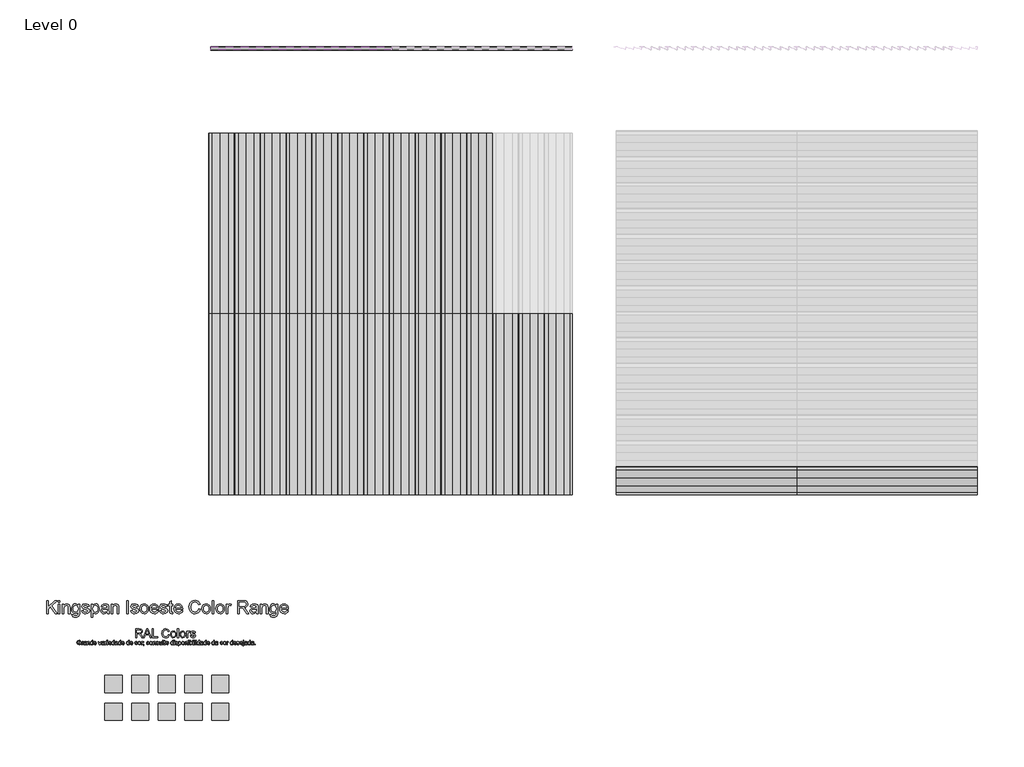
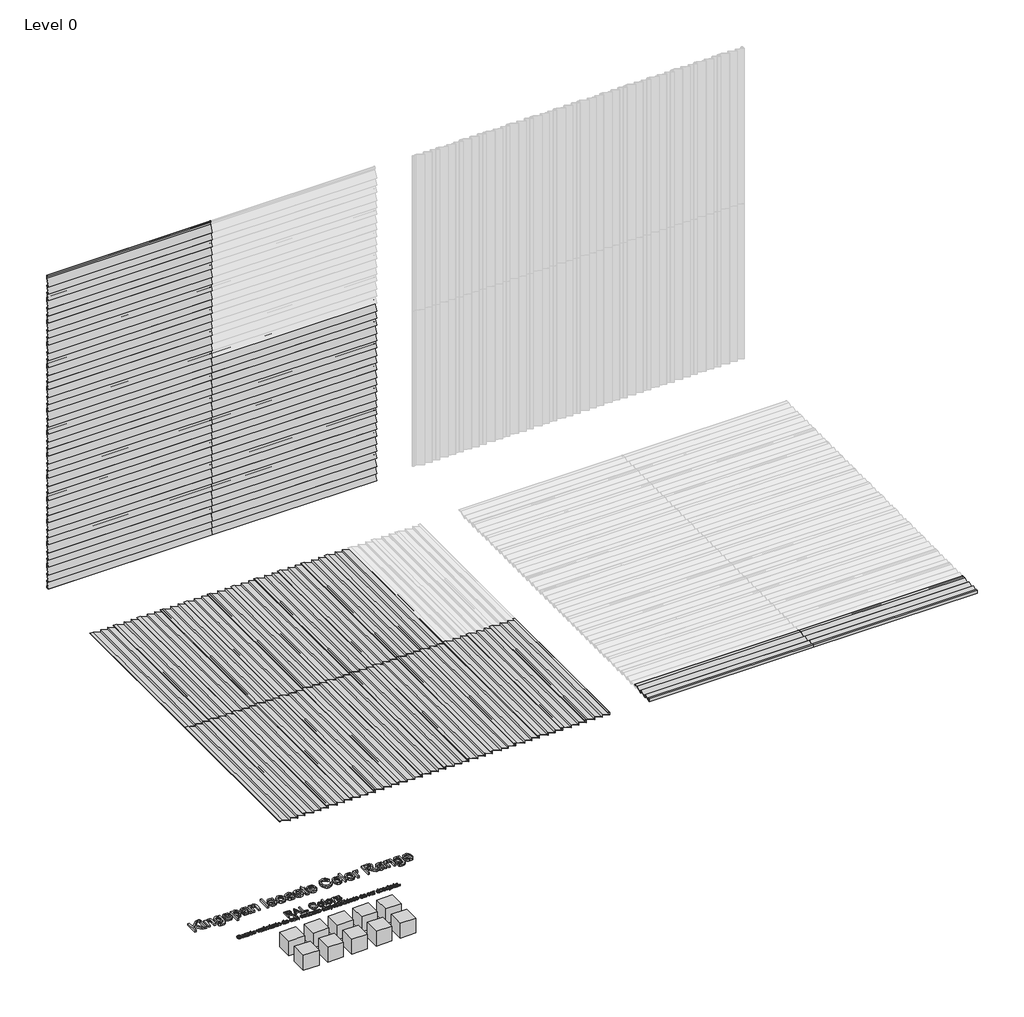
# One storey, part 1 of 2: 60 proxies.
"""IFC4 building model written with IfcOpenShell, lengths in millimetres."""

from ifc_helpers import new_model, si_unit, origin, place, context, project, spatial, transform, mapped, element, save
from components import proxy_32_ks_iso_colour_range_8220f766, proxy_32_ks_iso_colour_range_06d69407, ks_colour_sample_ks_colour_sample_0243efec, ps1_0_standard_panel_ns_bf2b593f, ps1_0_standard_panel_ns_1c35b6c5

model = new_model("IFC4")

# Units and contexts
model_context = context("Model", 3, world=origin())
ifc_project = project(units=[si_unit("LENGTHUNIT", "METRE", prefix="MILLI")], contexts=[model_context])

# Site, building, storey
site = spatial("IfcSite", under=ifc_project)
building = spatial("IfcBuilding", under=site)
storey = spatial("IfcBuildingStorey", under=building, Name="Level 0", Elevation=0.0)

# Proxies
placement = place(None, origin())
proxy_32_ks_iso_colour_range_shape = proxy_32_ks_iso_colour_range_8220f766(model_context)
proxy_32_ks_iso_colour_range_2_shape = proxy_32_ks_iso_colour_range_06d69407(model_context)
element("IfcBuildingElementProxy", 1, Name="32-KS-ISO-Colour Range : Kingspan Isoeste Color Range", ObjectType="32-KS-ISO-Colour Range : Kingspan Isoeste Color Range", at=placement, inside=storey, context=model_context, shape_type="MappedRepresentation", body=[
    mapped(proxy_32_ks_iso_colour_range_shape, transform((-3929.8390717, -2223.0925896, 0.0), x_axis=(1.0, 0.0, 0.0), y_axis=(0.0, 1.0, 0.0), z_axis=(0.0, 0.0, 1.0))),
    mapped(proxy_32_ks_iso_colour_range_2_shape, transform((-3929.8390717, -2223.0925896, 0.0), x_axis=(1.0, 0.0, 0.0), y_axis=(0.0, 1.0, 0.0), z_axis=(0.0, 0.0, 1.0))),
])
ks_colour_sample_ks_colour_sample_shape = ks_colour_sample_ks_colour_sample_0243efec(model_context)
element("IfcBuildingElementProxy", 2, Name="KS_Colour Sample : KS_Colour Sample", ObjectType="KS_Colour Sample : KS_Colour Sample", at=placement, inside=storey, context=model_context, shape_type="MappedRepresentation", body=[
    mapped(ks_colour_sample_ks_colour_sample_shape, transform((-3309.8390717, -2663.0925896, 0.0), x_axis=(1.0, 0.0, 0.0), y_axis=(0.0, 1.0, 0.0), z_axis=(0.0, 0.0, 1.0))),
])
element("IfcBuildingElementProxy", 3, Name="KS_Colour Sample : KS_Colour Sample", ObjectType="KS_Colour Sample : KS_Colour Sample", at=placement, inside=storey, context=model_context, shape_type="MappedRepresentation", body=[
    mapped(ks_colour_sample_ks_colour_sample_shape, transform((-3309.8390717, -2343.0925896, 0.0), x_axis=(1.0, 0.0, 0.0), y_axis=(0.0, 1.0, 0.0), z_axis=(0.0, 0.0, 1.0))),
])
element("IfcBuildingElementProxy", 4, Name="KS_Colour Sample : KS_Colour Sample", ObjectType="KS_Colour Sample : KS_Colour Sample", at=placement, inside=storey, context=model_context, shape_type="MappedRepresentation", body=[
    mapped(ks_colour_sample_ks_colour_sample_shape, transform((-4549.8390717, -2663.0925896, 0.0), x_axis=(1.0, 0.0, 0.0), y_axis=(0.0, 1.0, 0.0), z_axis=(0.0, 0.0, 1.0))),
])
element("IfcBuildingElementProxy", 5, Name="KS_Colour Sample : KS_Colour Sample", ObjectType="KS_Colour Sample : KS_Colour Sample", at=placement, inside=storey, context=model_context, shape_type="MappedRepresentation", body=[
    mapped(ks_colour_sample_ks_colour_sample_shape, transform((-4239.8390717, -2663.0925896, 0.0), x_axis=(1.0, 0.0, 0.0), y_axis=(0.0, 1.0, 0.0), z_axis=(0.0, 0.0, 1.0))),
])
element("IfcBuildingElementProxy", 6, Name="KS_Colour Sample : KS_Colour Sample", ObjectType="KS_Colour Sample : KS_Colour Sample", at=placement, inside=storey, context=model_context, shape_type="MappedRepresentation", body=[
    mapped(ks_colour_sample_ks_colour_sample_shape, transform((-3619.8390717, -2663.0925896, 0.0), x_axis=(1.0, 0.0, 0.0), y_axis=(0.0, 1.0, 0.0), z_axis=(0.0, 0.0, 1.0))),
])
element("IfcBuildingElementProxy", 7, Name="KS_Colour Sample : KS_Colour Sample", ObjectType="KS_Colour Sample : KS_Colour Sample", at=placement, inside=storey, context=model_context, shape_type="MappedRepresentation", body=[
    mapped(ks_colour_sample_ks_colour_sample_shape, transform((-4549.8390717, -2343.0925896, 0.0), x_axis=(1.0, 0.0, 0.0), y_axis=(0.0, 1.0, 0.0), z_axis=(0.0, 0.0, 1.0))),
])
element("IfcBuildingElementProxy", 8, Name="KS_Colour Sample : KS_Colour Sample", ObjectType="KS_Colour Sample : KS_Colour Sample", at=placement, inside=storey, context=model_context, shape_type="MappedRepresentation", body=[
    mapped(ks_colour_sample_ks_colour_sample_shape, transform((-4239.8390717, -2343.0925896, 0.0), x_axis=(1.0, 0.0, 0.0), y_axis=(0.0, 1.0, 0.0), z_axis=(0.0, 0.0, 1.0))),
])
element("IfcBuildingElementProxy", 9, Name="KS_Colour Sample : KS_Colour Sample", ObjectType="KS_Colour Sample : KS_Colour Sample", at=placement, inside=storey, context=model_context, shape_type="MappedRepresentation", body=[
    mapped(ks_colour_sample_ks_colour_sample_shape, transform((-3619.8390717, -2343.0925896, 0.0), x_axis=(1.0, 0.0, 0.0), y_axis=(0.0, 1.0, 0.0), z_axis=(0.0, 0.0, 1.0))),
])
element("IfcBuildingElementProxy", 10, Name="KS_Colour Sample : KS_Colour Sample", ObjectType="KS_Colour Sample : KS_Colour Sample", at=placement, inside=storey, context=model_context, shape_type="MappedRepresentation", body=[
    mapped(ks_colour_sample_ks_colour_sample_shape, transform((-3929.8390717, -2343.0925896, 0.0), x_axis=(1.0, 0.0, 0.0), y_axis=(0.0, 1.0, 0.0), z_axis=(0.0, 0.0, 1.0))),
])
element("IfcBuildingElementProxy", 11, Name="KS_Colour Sample : KS_Colour Sample", ObjectType="KS_Colour Sample : KS_Colour Sample", at=placement, inside=storey, context=model_context, shape_type="MappedRepresentation", body=[
    mapped(ks_colour_sample_ks_colour_sample_shape, transform((-3929.8390717, -2663.0925896, 0.0), x_axis=(1.0, 0.0, 0.0), y_axis=(0.0, 1.0, 0.0), z_axis=(0.0, 0.0, 1.0))),
])
ps1_0_standard_panel_ns_shape = ps1_0_standard_panel_ns_bf2b593f(model_context)
element("IfcBuildingElementProxy", 12, Name="PS1.0 : Standard Panel_NS", ObjectType="PS1.0 : Standard Panel_NS", at=placement, inside=storey, context=model_context, shape_type="MappedRepresentation", body=[
    mapped(ps1_0_standard_panel_ns_shape, transform((-3417.7637295, 5063.0274074, 300.0), x_axis=(1.0, 0.0, 0.0), y_axis=(0.0, 0.0, 1.0), z_axis=(0.0, -1.0, 0.0))),
])
element("IfcBuildingElementProxy", 13, Name="PS1.0 : Standard Panel_NS", ObjectType="PS1.0 : Standard Panel_NS", at=placement, inside=storey, context=model_context, shape_type="MappedRepresentation", body=[
    mapped(ps1_0_standard_panel_ns_shape, transform((-3417.7637295, 5063.0274074, 2700.0), x_axis=(1.0, 0.0, 0.0), y_axis=(0.0, 0.0, 1.0), z_axis=(0.0, -1.0, 0.0))),
])
element("IfcBuildingElementProxy", 14, Name="PS1.0 : Standard Panel_NS", ObjectType="PS1.0 : Standard Panel_NS", at=placement, inside=storey, context=model_context, shape_type="MappedRepresentation", body=[
    mapped(ps1_0_standard_panel_ns_shape, transform((-1317.7637295, 5063.0274074, 300.0), x_axis=(1.0, 0.0, 0.0), y_axis=(0.0, 0.0, 1.0), z_axis=(0.0, -1.0, 0.0))),
])
ps1_0_standard_panel_ns_2_shape = ps1_0_standard_panel_ns_1c35b6c5(model_context)
element("IfcBuildingElementProxy", 15, Name="PS1.0 : Standard Panel_NS", ObjectType="PS1.0 : Standard Panel_NS", at=placement, inside=storey, context=model_context, shape_type="MappedRepresentation", body=[
    mapped(ps1_0_standard_panel_ns_2_shape, transform((482.2362703, -141.6886547, 0.0), x_axis=(0.0, 1.0, 0.0), y_axis=(-1.0, 0.0, 0.0), z_axis=(0.0, 0.0, 1.0))),
])
element("IfcBuildingElementProxy", 16, Name="PS1.0 : Standard Panel_NS", ObjectType="PS1.0 : Standard Panel_NS", at=placement, inside=storey, context=model_context, shape_type="MappedRepresentation", body=[
    mapped(ps1_0_standard_panel_ns_2_shape, transform((-1917.7637297, -141.6886547, 0.0), x_axis=(0.0, 1.0, 0.0), y_axis=(-1.0, 0.0, 0.0), z_axis=(0.0, 0.0, 1.0))),
])
element("IfcBuildingElementProxy", 17, Name="PS1.0 : Standard Panel_NS", ObjectType="PS1.0 : Standard Panel_NS", at=placement, inside=storey, context=model_context, shape_type="MappedRepresentation", body=[
    mapped(ps1_0_standard_panel_ns_2_shape, transform((-1917.7637297, 1958.3113453, 0.0), x_axis=(0.0, 1.0, 0.0), y_axis=(-1.0, 0.0, 0.0), z_axis=(0.0, 0.0, 1.0))),
])
element("IfcBuildingElementProxy", 18, Name="PS1.0 : Standard Panel_NS", ObjectType="PS1.0 : Standard Panel_NS", at=placement, inside=storey, context=model_context, shape_type="MappedRepresentation", body=[
    mapped(ps1_0_standard_panel_ns_shape, transform((-3417.7637295, 5063.0274074, 0.0), x_axis=(1.0, 0.0, 0.0), y_axis=(0.0, 0.0, 1.0), z_axis=(0.0, -1.0, 0.0))),
])
element("IfcBuildingElementProxy", 19, Name="PS1.0 : Standard Panel_NS", ObjectType="PS1.0 : Standard Panel_NS", at=placement, inside=storey, context=model_context, shape_type="MappedRepresentation", body=[
    mapped(ps1_0_standard_panel_ns_shape, transform((-3417.7637295, 5063.0274074, 2400.0), x_axis=(1.0, 0.0, 0.0), y_axis=(0.0, 0.0, 1.0), z_axis=(0.0, -1.0, 0.0))),
])
element("IfcBuildingElementProxy", 20, Name="PS1.0 : Standard Panel_NS", ObjectType="PS1.0 : Standard Panel_NS", at=placement, inside=storey, context=model_context, shape_type="MappedRepresentation", body=[
    mapped(ps1_0_standard_panel_ns_shape, transform((-1317.7637295, 5063.0274074, 0.0), x_axis=(1.0, 0.0, 0.0), y_axis=(0.0, 0.0, 1.0), z_axis=(0.0, -1.0, 0.0))),
])
element("IfcBuildingElementProxy", 21, Name="PS1.0 : Standard Panel_NS", ObjectType="PS1.0 : Standard Panel_NS", at=placement, inside=storey, context=model_context, shape_type="MappedRepresentation", body=[
    mapped(ps1_0_standard_panel_ns_2_shape, transform((-1617.7637297, -141.6886547, 0.0), x_axis=(0.0, 1.0, 0.0), y_axis=(-1.0, 0.0, 0.0), z_axis=(0.0, 0.0, 1.0))),
])
element("IfcBuildingElementProxy", 22, Name="PS1.0 : Standard Panel_NS", ObjectType="PS1.0 : Standard Panel_NS", at=placement, inside=storey, context=model_context, shape_type="MappedRepresentation", body=[
    mapped(ps1_0_standard_panel_ns_2_shape, transform((1289.7088668, -141.6886547, 0.0), x_axis=(1.0, 0.0, 0.0), y_axis=(0.0, 1.0, 0.0), z_axis=(0.0, 0.0, 1.0))),
])
element("IfcBuildingElementProxy", 23, Name="PS1.0 : Standard Panel_NS", ObjectType="PS1.0 : Standard Panel_NS", at=placement, inside=storey, context=model_context, shape_type="MappedRepresentation", body=[
    mapped(ps1_0_standard_panel_ns_2_shape, transform((-1617.7637297, 1958.3113453, 0.0), x_axis=(0.0, 1.0, 0.0), y_axis=(-1.0, 0.0, 0.0), z_axis=(0.0, 0.0, 1.0))),
])
element("IfcBuildingElementProxy", 24, Name="PS1.0 : Standard Panel_NS", ObjectType="PS1.0 : Standard Panel_NS", at=placement, inside=storey, context=model_context, shape_type="MappedRepresentation", body=[
    mapped(ps1_0_standard_panel_ns_2_shape, transform((3389.7088668, -141.6886547, 0.0), x_axis=(1.0, 0.0, 0.0), y_axis=(0.0, 1.0, 0.0), z_axis=(0.0, 0.0, 1.0))),
])
element("IfcBuildingElementProxy", 25, Name="PS1.0 : Standard Panel_NS", ObjectType="PS1.0 : Standard Panel_NS", at=placement, inside=storey, context=model_context, shape_type="MappedRepresentation", body=[
    mapped(ps1_0_standard_panel_ns_2_shape, transform((782.2362705, -141.6886547, 0.0), x_axis=(0.0, 1.0, 0.0), y_axis=(-1.0, 0.0, 0.0), z_axis=(0.0, 0.0, 1.0))),
])
element("IfcBuildingElementProxy", 26, Name="PS1.0 : Standard Panel_NS", ObjectType="PS1.0 : Standard Panel_NS", at=placement, inside=storey, context=model_context, shape_type="MappedRepresentation", body=[
    mapped(ps1_0_standard_panel_ns_2_shape, transform((-3117.7637295, -141.6886547, 0.0), x_axis=(0.0, 1.0, 0.0), y_axis=(-1.0, 0.0, 0.0), z_axis=(0.0, 0.0, 1.0))),
])
element("IfcBuildingElementProxy", 27, Name="PS1.0 : Standard Panel_NS", ObjectType="PS1.0 : Standard Panel_NS", at=placement, inside=storey, context=model_context, shape_type="MappedRepresentation", body=[
    mapped(ps1_0_standard_panel_ns_2_shape, transform((-717.7637297, -141.6886547, 0.0), x_axis=(0.0, 1.0, 0.0), y_axis=(-1.0, 0.0, 0.0), z_axis=(0.0, 0.0, 1.0))),
])
element("IfcBuildingElementProxy", 28, Name="PS1.0 : Standard Panel_NS", ObjectType="PS1.0 : Standard Panel_NS", at=placement, inside=storey, context=model_context, shape_type="MappedRepresentation", body=[
    mapped(ps1_0_standard_panel_ns_2_shape, transform((-3117.7637295, 1958.3113453, 0.0), x_axis=(0.0, 1.0, 0.0), y_axis=(-1.0, 0.0, 0.0), z_axis=(0.0, 0.0, 1.0))),
])
element("IfcBuildingElementProxy", 29, Name="PS1.0 : Standard Panel_NS", ObjectType="PS1.0 : Standard Panel_NS", at=placement, inside=storey, context=model_context, shape_type="MappedRepresentation", body=[
    mapped(ps1_0_standard_panel_ns_2_shape, transform((-717.7637297, 1958.3113453, 0.0), x_axis=(0.0, 1.0, 0.0), y_axis=(-1.0, 0.0, 0.0), z_axis=(0.0, 0.0, 1.0))),
])
element("IfcBuildingElementProxy", 30, Name="PS1.0 : Standard Panel_NS", ObjectType="PS1.0 : Standard Panel_NS", at=placement, inside=storey, context=model_context, shape_type="MappedRepresentation", body=[
    mapped(ps1_0_standard_panel_ns_shape, transform((-3417.7637295, 5063.0274074, 1500.0), x_axis=(1.0, 0.0, 0.0), y_axis=(0.0, 0.0, 1.0), z_axis=(0.0, -1.0, 0.0))),
])
element("IfcBuildingElementProxy", 31, Name="PS1.0 : Standard Panel_NS", ObjectType="PS1.0 : Standard Panel_NS", at=placement, inside=storey, context=model_context, shape_type="MappedRepresentation", body=[
    mapped(ps1_0_standard_panel_ns_shape, transform((-3417.7637295, 5063.0274074, 3900.0), x_axis=(1.0, 0.0, 0.0), y_axis=(0.0, 0.0, 1.0), z_axis=(0.0, -1.0, 0.0))),
])
element("IfcBuildingElementProxy", 32, Name="PS1.0 : Standard Panel_NS", ObjectType="PS1.0 : Standard Panel_NS", at=placement, inside=storey, context=model_context, shape_type="MappedRepresentation", body=[
    mapped(ps1_0_standard_panel_ns_shape, transform((-1317.7637295, 5063.0274074, 1500.0), x_axis=(1.0, 0.0, 0.0), y_axis=(0.0, 0.0, 1.0), z_axis=(0.0, -1.0, 0.0))),
])
element("IfcBuildingElementProxy", 33, Name="PS1.0 : Standard Panel_NS", ObjectType="PS1.0 : Standard Panel_NS", at=placement, inside=storey, context=model_context, shape_type="MappedRepresentation", body=[
    mapped(ps1_0_standard_panel_ns_shape, transform((-3417.7637295, 5063.0274074, 600.0), x_axis=(1.0, 0.0, 0.0), y_axis=(0.0, 0.0, 1.0), z_axis=(0.0, -1.0, 0.0))),
])
element("IfcBuildingElementProxy", 34, Name="PS1.0 : Standard Panel_NS", ObjectType="PS1.0 : Standard Panel_NS", at=placement, inside=storey, context=model_context, shape_type="MappedRepresentation", body=[
    mapped(ps1_0_standard_panel_ns_shape, transform((-3417.7637295, 5063.0274074, 3000.0), x_axis=(1.0, 0.0, 0.0), y_axis=(0.0, 0.0, 1.0), z_axis=(0.0, -1.0, 0.0))),
])
element("IfcBuildingElementProxy", 35, Name="PS1.0 : Standard Panel_NS", ObjectType="PS1.0 : Standard Panel_NS", at=placement, inside=storey, context=model_context, shape_type="MappedRepresentation", body=[
    mapped(ps1_0_standard_panel_ns_shape, transform((-1317.7637295, 5063.0274074, 600.0), x_axis=(1.0, 0.0, 0.0), y_axis=(0.0, 0.0, 1.0), z_axis=(0.0, -1.0, 0.0))),
])
element("IfcBuildingElementProxy", 36, Name="PS1.0 : Standard Panel_NS", ObjectType="PS1.0 : Standard Panel_NS", at=placement, inside=storey, context=model_context, shape_type="MappedRepresentation", body=[
    mapped(ps1_0_standard_panel_ns_shape, transform((-3417.7637295, 5063.0274074, 900.0), x_axis=(1.0, 0.0, 0.0), y_axis=(0.0, 0.0, 1.0), z_axis=(0.0, -1.0, 0.0))),
])
element("IfcBuildingElementProxy", 37, Name="PS1.0 : Standard Panel_NS", ObjectType="PS1.0 : Standard Panel_NS", at=placement, inside=storey, context=model_context, shape_type="MappedRepresentation", body=[
    mapped(ps1_0_standard_panel_ns_shape, transform((-3417.7637295, 5063.0274074, 3300.0), x_axis=(1.0, 0.0, 0.0), y_axis=(0.0, 0.0, 1.0), z_axis=(0.0, -1.0, 0.0))),
])
element("IfcBuildingElementProxy", 38, Name="PS1.0 : Standard Panel_NS", ObjectType="PS1.0 : Standard Panel_NS", at=placement, inside=storey, context=model_context, shape_type="MappedRepresentation", body=[
    mapped(ps1_0_standard_panel_ns_shape, transform((-1317.7637295, 5063.0274074, 900.0), x_axis=(1.0, 0.0, 0.0), y_axis=(0.0, 0.0, 1.0), z_axis=(0.0, -1.0, 0.0))),
])
element("IfcBuildingElementProxy", 39, Name="PS1.0 : Standard Panel_NS", ObjectType="PS1.0 : Standard Panel_NS", at=placement, inside=storey, context=model_context, shape_type="MappedRepresentation", body=[
    mapped(ps1_0_standard_panel_ns_shape, transform((-3417.7637295, 5063.0274074, 1200.0), x_axis=(1.0, 0.0, 0.0), y_axis=(0.0, 0.0, 1.0), z_axis=(0.0, -1.0, 0.0))),
])
element("IfcBuildingElementProxy", 40, Name="PS1.0 : Standard Panel_NS", ObjectType="PS1.0 : Standard Panel_NS", at=placement, inside=storey, context=model_context, shape_type="MappedRepresentation", body=[
    mapped(ps1_0_standard_panel_ns_shape, transform((-3417.7637295, 5063.0274074, 3600.0), x_axis=(1.0, 0.0, 0.0), y_axis=(0.0, 0.0, 1.0), z_axis=(0.0, -1.0, 0.0))),
])
element("IfcBuildingElementProxy", 41, Name="PS1.0 : Standard Panel_NS", ObjectType="PS1.0 : Standard Panel_NS", at=placement, inside=storey, context=model_context, shape_type="MappedRepresentation", body=[
    mapped(ps1_0_standard_panel_ns_shape, transform((-1317.7637295, 5063.0274074, 1200.0), x_axis=(1.0, 0.0, 0.0), y_axis=(0.0, 0.0, 1.0), z_axis=(0.0, -1.0, 0.0))),
])
element("IfcBuildingElementProxy", 42, Name="PS1.0 : Standard Panel_NS", ObjectType="PS1.0 : Standard Panel_NS", at=placement, inside=storey, context=model_context, shape_type="MappedRepresentation", body=[
    mapped(ps1_0_standard_panel_ns_shape, transform((-3417.7637295, 5063.0274074, 1800.0), x_axis=(1.0, 0.0, 0.0), y_axis=(0.0, 0.0, 1.0), z_axis=(0.0, -1.0, 0.0))),
])
element("IfcBuildingElementProxy", 43, Name="PS1.0 : Standard Panel_NS", ObjectType="PS1.0 : Standard Panel_NS", at=placement, inside=storey, context=model_context, shape_type="MappedRepresentation", body=[
    mapped(ps1_0_standard_panel_ns_shape, transform((-1317.7637295, 5063.0274074, 1800.0), x_axis=(1.0, 0.0, 0.0), y_axis=(0.0, 0.0, 1.0), z_axis=(0.0, -1.0, 0.0))),
])
element("IfcBuildingElementProxy", 44, Name="PS1.0 : Standard Panel_NS", ObjectType="PS1.0 : Standard Panel_NS", at=placement, inside=storey, context=model_context, shape_type="MappedRepresentation", body=[
    mapped(ps1_0_standard_panel_ns_shape, transform((-3417.7637295, 5063.0274074, 2100.0), x_axis=(1.0, 0.0, 0.0), y_axis=(0.0, 0.0, 1.0), z_axis=(0.0, -1.0, 0.0))),
])
element("IfcBuildingElementProxy", 45, Name="PS1.0 : Standard Panel_NS", ObjectType="PS1.0 : Standard Panel_NS", at=placement, inside=storey, context=model_context, shape_type="MappedRepresentation", body=[
    mapped(ps1_0_standard_panel_ns_shape, transform((-1317.7637295, 5063.0274074, 2100.0), x_axis=(1.0, 0.0, 0.0), y_axis=(0.0, 0.0, 1.0), z_axis=(0.0, -1.0, 0.0))),
])
element("IfcBuildingElementProxy", 46, Name="PS1.0 : Standard Panel_NS", ObjectType="PS1.0 : Standard Panel_NS", at=placement, inside=storey, context=model_context, shape_type="MappedRepresentation", body=[
    mapped(ps1_0_standard_panel_ns_2_shape, transform((182.2362703, -141.6886547, 0.0), x_axis=(0.0, 1.0, 0.0), y_axis=(-1.0, 0.0, 0.0), z_axis=(0.0, 0.0, 1.0))),
])
element("IfcBuildingElementProxy", 47, Name="PS1.0 : Standard Panel_NS", ObjectType="PS1.0 : Standard Panel_NS", at=placement, inside=storey, context=model_context, shape_type="MappedRepresentation", body=[
    mapped(ps1_0_standard_panel_ns_2_shape, transform((-2217.7637297, -141.6886547, 0.0), x_axis=(0.0, 1.0, 0.0), y_axis=(-1.0, 0.0, 0.0), z_axis=(0.0, 0.0, 1.0))),
])
element("IfcBuildingElementProxy", 48, Name="PS1.0 : Standard Panel_NS", ObjectType="PS1.0 : Standard Panel_NS", at=placement, inside=storey, context=model_context, shape_type="MappedRepresentation", body=[
    mapped(ps1_0_standard_panel_ns_2_shape, transform((-2217.7637297, 1958.3113453, 0.0), x_axis=(0.0, 1.0, 0.0), y_axis=(-1.0, 0.0, 0.0), z_axis=(0.0, 0.0, 1.0))),
])
element("IfcBuildingElementProxy", 49, Name="PS1.0 : Standard Panel_NS", ObjectType="PS1.0 : Standard Panel_NS", at=placement, inside=storey, context=model_context, shape_type="MappedRepresentation", body=[
    mapped(ps1_0_standard_panel_ns_2_shape, transform((-117.7637297, -141.6886547, 0.0), x_axis=(0.0, 1.0, 0.0), y_axis=(-1.0, 0.0, 0.0), z_axis=(0.0, 0.0, 1.0))),
])
element("IfcBuildingElementProxy", 50, Name="PS1.0 : Standard Panel_NS", ObjectType="PS1.0 : Standard Panel_NS", at=placement, inside=storey, context=model_context, shape_type="MappedRepresentation", body=[
    mapped(ps1_0_standard_panel_ns_2_shape, transform((-2517.7637297, -141.6886547, 0.0), x_axis=(0.0, 1.0, 0.0), y_axis=(-1.0, 0.0, 0.0), z_axis=(0.0, 0.0, 1.0))),
])
element("IfcBuildingElementProxy", 51, Name="PS1.0 : Standard Panel_NS", ObjectType="PS1.0 : Standard Panel_NS", at=placement, inside=storey, context=model_context, shape_type="MappedRepresentation", body=[
    mapped(ps1_0_standard_panel_ns_2_shape, transform((-2517.7637297, 1958.3113453, 0.0), x_axis=(0.0, 1.0, 0.0), y_axis=(-1.0, 0.0, 0.0), z_axis=(0.0, 0.0, 1.0))),
])
element("IfcBuildingElementProxy", 52, Name="PS1.0 : Standard Panel_NS", ObjectType="PS1.0 : Standard Panel_NS", at=placement, inside=storey, context=model_context, shape_type="MappedRepresentation", body=[
    mapped(ps1_0_standard_panel_ns_2_shape, transform((-117.7637297, 1958.3113453, 0.0), x_axis=(0.0, 1.0, 0.0), y_axis=(-1.0, 0.0, 0.0), z_axis=(0.0, 0.0, 1.0))),
])
element("IfcBuildingElementProxy", 53, Name="PS1.0 : Standard Panel_NS", ObjectType="PS1.0 : Standard Panel_NS", at=placement, inside=storey, context=model_context, shape_type="MappedRepresentation", body=[
    mapped(ps1_0_standard_panel_ns_2_shape, transform((-417.7637297, -141.6886547, 0.0), x_axis=(0.0, 1.0, 0.0), y_axis=(-1.0, 0.0, 0.0), z_axis=(0.0, 0.0, 1.0))),
])
element("IfcBuildingElementProxy", 54, Name="PS1.0 : Standard Panel_NS", ObjectType="PS1.0 : Standard Panel_NS", at=placement, inside=storey, context=model_context, shape_type="MappedRepresentation", body=[
    mapped(ps1_0_standard_panel_ns_2_shape, transform((-2817.7637297, -141.6886547, 0.0), x_axis=(0.0, 1.0, 0.0), y_axis=(-1.0, 0.0, 0.0), z_axis=(0.0, 0.0, 1.0))),
])
element("IfcBuildingElementProxy", 55, Name="PS1.0 : Standard Panel_NS", ObjectType="PS1.0 : Standard Panel_NS", at=placement, inside=storey, context=model_context, shape_type="MappedRepresentation", body=[
    mapped(ps1_0_standard_panel_ns_2_shape, transform((-2817.7637297, 1958.3113453, 0.0), x_axis=(0.0, 1.0, 0.0), y_axis=(-1.0, 0.0, 0.0), z_axis=(0.0, 0.0, 1.0))),
])
element("IfcBuildingElementProxy", 56, Name="PS1.0 : Standard Panel_NS", ObjectType="PS1.0 : Standard Panel_NS", at=placement, inside=storey, context=model_context, shape_type="MappedRepresentation", body=[
    mapped(ps1_0_standard_panel_ns_2_shape, transform((-417.7637297, 1958.3113453, 0.0), x_axis=(0.0, 1.0, 0.0), y_axis=(-1.0, 0.0, 0.0), z_axis=(0.0, 0.0, 1.0))),
])
element("IfcBuildingElementProxy", 57, Name="PS1.0 : Standard Panel_NS", ObjectType="PS1.0 : Standard Panel_NS", at=placement, inside=storey, context=model_context, shape_type="MappedRepresentation", body=[
    mapped(ps1_0_standard_panel_ns_2_shape, transform((-1017.7637297, -141.6886547, 0.0), x_axis=(0.0, 1.0, 0.0), y_axis=(-1.0, 0.0, 0.0), z_axis=(0.0, 0.0, 1.0))),
])
element("IfcBuildingElementProxy", 58, Name="PS1.0 : Standard Panel_NS", ObjectType="PS1.0 : Standard Panel_NS", at=placement, inside=storey, context=model_context, shape_type="MappedRepresentation", body=[
    mapped(ps1_0_standard_panel_ns_2_shape, transform((-1017.7637297, 1958.3113453, 0.0), x_axis=(0.0, 1.0, 0.0), y_axis=(-1.0, 0.0, 0.0), z_axis=(0.0, 0.0, 1.0))),
])
element("IfcBuildingElementProxy", 59, Name="PS1.0 : Standard Panel_NS", ObjectType="PS1.0 : Standard Panel_NS", at=placement, inside=storey, context=model_context, shape_type="MappedRepresentation", body=[
    mapped(ps1_0_standard_panel_ns_2_shape, transform((-1317.7637297, -141.6886547, 0.0), x_axis=(0.0, 1.0, 0.0), y_axis=(-1.0, 0.0, 0.0), z_axis=(0.0, 0.0, 1.0))),
])
element("IfcBuildingElementProxy", 60, Name="PS1.0 : Standard Panel_NS", ObjectType="PS1.0 : Standard Panel_NS", at=placement, inside=storey, context=model_context, shape_type="MappedRepresentation", body=[
    mapped(ps1_0_standard_panel_ns_2_shape, transform((-1317.7637297, 1958.3113453, 0.0), x_axis=(0.0, 1.0, 0.0), y_axis=(-1.0, 0.0, 0.0), z_axis=(0.0, 0.0, 1.0))),
])

save(model, "model.ifc")
